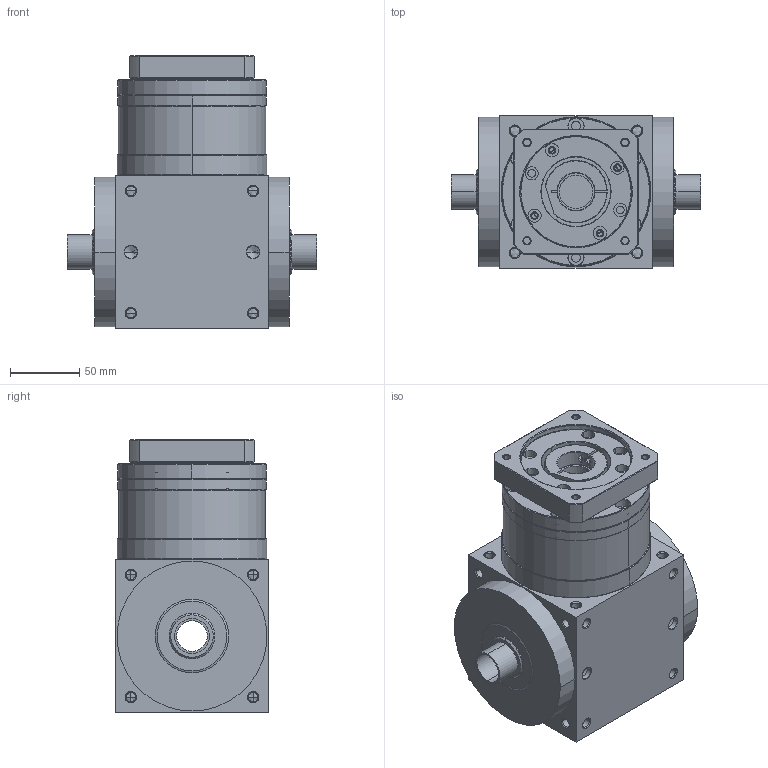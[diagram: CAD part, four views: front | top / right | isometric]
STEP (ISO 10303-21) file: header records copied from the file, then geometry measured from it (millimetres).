
FILE_DESCRIPTION((''),'2;1');
FILE_NAME('AT110FC1-P0403300603_ASM','2009-01-21T',('d00080'),(''),'PRO/ENGINEER BY PARAMETRIC TECHNOLOGY CORPORATION, 2006170','PRO/ENGINEER BY PARAMETRIC TECHNOLOGY CORPORATION, 2006170','');
FILE_SCHEMA(('CONFIG_CONTROL_DESIGN'));
Length unit declared in the file: millimetre
Products named in the file (6): AT110FC-A; P1801500001; P1502500001; P0501300101; P0403300603; AT110FC1-P0403300603_ASM
Assembly tree (5 placements, depth 2):
  AT110FC1-P0403300603_ASM
    AT110FC-A
    P1801500001
    P1502500001
    P0501300101
    P0403300603
Bounding box: 180 x 110 x 196.5 mm (x, y, z)
Volume: 2003891.5 mm3; surface area: 233806.2 mm2
Topology: 5 solids, 47 shells, 779 faces, 1946 edges, 1185 vertices
Faces by surface type: cylinder 362, cone 266, plane 121, torus 30
Entity records: 24195 total; most frequent: CARTESIAN_POINT 5259, DIRECTION 4267, ORIENTED_EDGE 3588, EDGE_CURVE 1878, AXIS2_PLACEMENT_3D 1799, VERTEX_POINT 1185, CIRCLE 999, EDGE_LOOP 959
